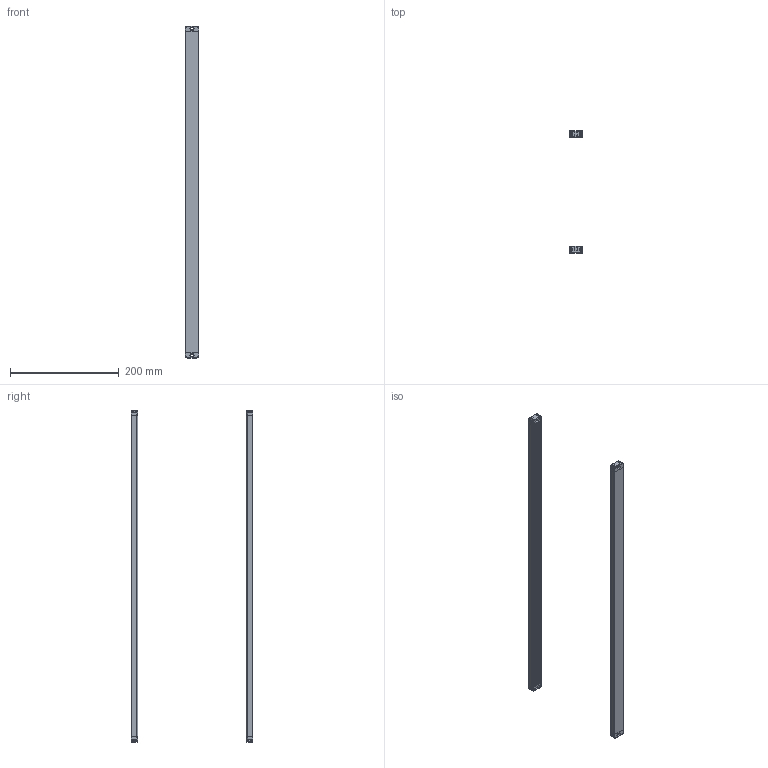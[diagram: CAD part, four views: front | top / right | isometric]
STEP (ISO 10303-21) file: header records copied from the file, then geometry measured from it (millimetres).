
FILE_DESCRIPTION (( 'STEP AP203' ), '1' );
FILE_NAME ('ZDB3020-590.STEP', '2022-08-31T03:15:54', ( 'Windows 蚚誧' ), ( 'Organization' ), 'SwSTEP 2.0', 'SolidWorks 2020', '' );
FILE_SCHEMA (( 'CONFIG_CONTROL_DESIGN' ));
Length unit declared in the file: millimetre
Products named in the file (4): 媼啃3臏倰第; ZDB3020-590; 傷裔衵; 傷裔酘諉彶
Assembly tree (6 placements, depth 2):
  ZDB3020-590
    傷裔衵  x2
    傷裔酘諉彶  x2
    媼啃3臏倰第  x2
Bounding box: 25 x 224 x 610 mm (x, y, z)
Volume: 118255.4 mm3; surface area: 189806.5 mm2
Topology: 6 solids, 6 shells, 650 faces, 1758 edges, 1124 vertices
Faces by surface type: plane 406, cylinder 188, torus 32, bspline 16, sphere 8
Entity records: 11427 total; most frequent: CARTESIAN_POINT 2721, ORIENTED_EDGE 1750, DIRECTION 1687, EDGE_CURVE 875, VECTOR 631, LINE 631, VERTEX_POINT 562, AXIS2_PLACEMENT_3D 528
